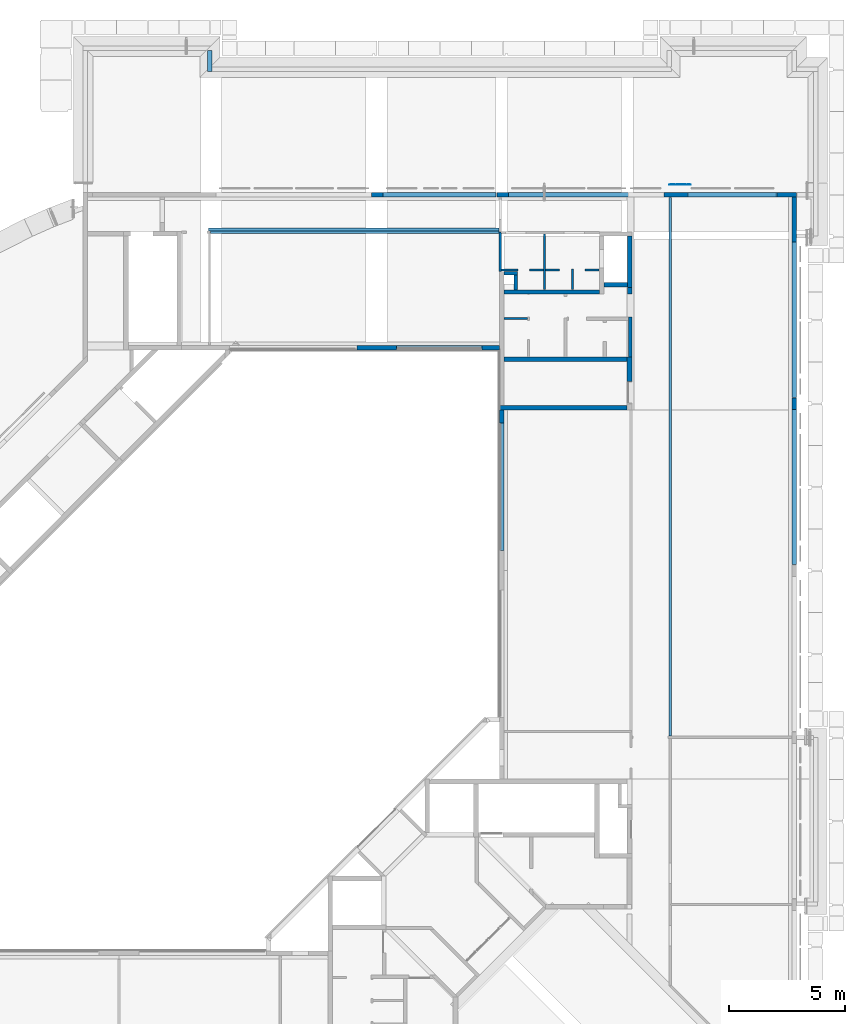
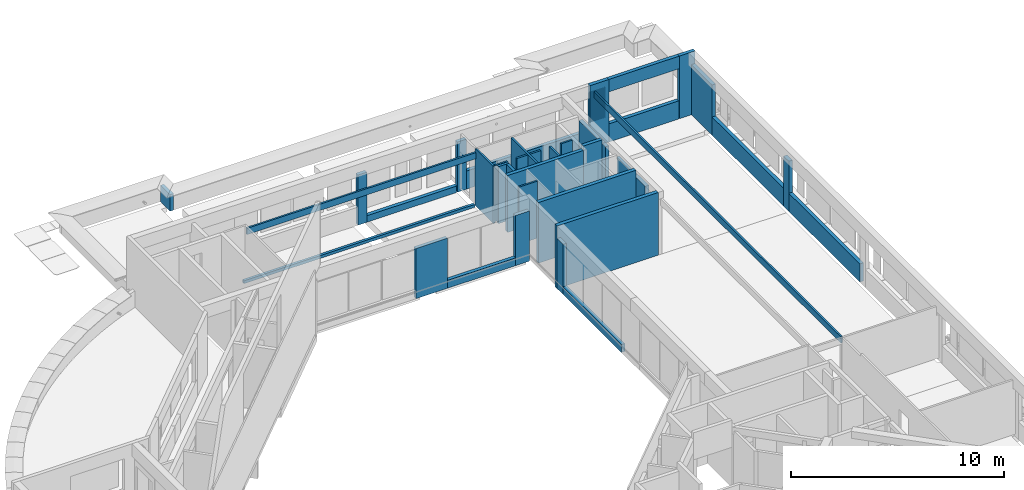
# One storey, part 16 of 38: 39 walls.
"""IFC4X3_ADD2 building model written with IfcOpenShell, lengths in millimetres."""

from ifc_helpers import new_model, si_unit, direction, frame, frame_2d, origin_with_axes, origin_2d_with_axis, place, context, subcontext, project, spatial, polyline, rectangle, outline, extrude, source, transform, mapped, material, type_object, type_shapes, element, save


model = new_model("IFC4X3_ADD2")

# Units and contexts
model_context = context("Model", 3, precision=1e-05, world=origin_with_axes(), true_north=direction((0.0, 1.0)))
body_context = subcontext(model_context, "Body", "Model", "MODEL_VIEW")
ifc_project = project(units=[si_unit("LENGTHUNIT", "METRE", prefix="MILLI"), si_unit("AREAUNIT", "SQUARE_METRE"), si_unit("VOLUMEUNIT", "CUBIC_METRE"), si_unit("PLANEANGLEUNIT", "RADIAN"), si_unit("TIMEUNIT", "SECOND"), si_unit("MASSUNIT", "GRAM")], contexts=[model_context])

# Site, building, storey
site_placement = place(None, origin_with_axes())
site = spatial("IfcSite", under=ifc_project, at=site_placement, Name="Site", CompositionType="ELEMENT")
building_placement = place(site_placement, origin_with_axes())
building = spatial("IfcBuilding", under=site, at=building_placement, Name="IFC Building Story")
storey_placement = place(building_placement, frame((0.0, 0.0, 10800.0), z_axis=(0.0, 0.0, 1.0), x_axis=(1.0, 0.0, 0.0)))
storey = spatial("IfcBuildingStorey", under=building, at=storey_placement, Name="030", Elevation=10800.0)

# Walls
ifc_material_1 = material(Name="BB_Beton_Bestaand")
wall_type_1 = type_object("IfcWallType", Name="BB_Beton_Bestaand 200", PredefinedType="NOTDEFINED", material=ifc_material_1)
wall_1_placement = place(storey_placement, origin_with_axes())
element("IfcWall", 1, at=wall_1_placement, inside=storey, type_object=wall_type_1, Name="Basic Wall:BB_XX_Wand uit beton, 200 mm", ObjectType="Basic Wall:BB_XX_Wand uit beton, 200 mm", PredefinedType="SOLIDWALL", context=body_context, shape_type="SweptSolid", body=[
    extrude(rectangle(XDim=5500.004065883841, YDim=200.0, at=origin_2d_with_axis()), frame((-9950.00203294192, 36100.0, -200.0), z_axis=(0.0, 0.0, 1.0), x_axis=(1.0, 0.0, 0.0)), (0.0, 0.0, 1.0), 3600.0),
])
wall_2_placement = place(storey_placement, origin_with_axes())
element("IfcWall", 2, at=wall_2_placement, inside=storey, type_object=wall_type_1, Name="Basic Wall:BB_XX_Wand uit beton, 200 mm", ObjectType="Basic Wall:BB_XX_Wand uit beton, 200 mm", PredefinedType="SOLIDWALL", context=body_context, shape_type="SweptSolid", body=[
    extrude(rectangle(XDim=5300.004065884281, YDim=200.0, at=origin_2d_with_axis()), frame((-9850.00203294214, 38200.0, -80.0), z_axis=(0.0, 0.0, 1.0), x_axis=(1.0, 0.0, 0.0)), (0.0, 0.0, 1.0), 3480.0),
])
wall_3_placement = place(storey_placement, origin_with_axes())
element("IfcWall", 3, at=wall_3_placement, inside=storey, type_object=wall_type_1, Name="Basic Wall:BB_XX_Wand uit beton, 200 mm", ObjectType="Basic Wall:BB_XX_Wand uit beton, 200 mm", PredefinedType="SOLIDWALL", context=body_context, shape_type="SweptSolid", body=[
    extrude(rectangle(XDim=1064.999841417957, YDim=200.0, at=frame_2d((0.0, 0.0), x_axis=(0.0, 1.0))), frame((-7100.0, 37767.50007929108, -200.0), z_axis=(0.0, 0.0, 1.0), x_axis=(1.0, 0.0, 0.0)), (0.0, 0.0, 1.0), 3190.00000000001),
])
wall_type_2 = type_object("IfcWallType", Name="BB_Beton_Bestaand 190", PredefinedType="NOTDEFINED", material=ifc_material_1)
wall_4_placement = place(storey_placement, origin_with_axes())
element("IfcWall", 4, at=wall_4_placement, inside=storey, type_object=wall_type_2, Name="Basic Wall:BB_XX_Wand uit beton, 190 mm", ObjectType="Basic Wall:BB_XX_Wand uit beton, 190 mm", PredefinedType="SOLIDWALL", context=body_context, shape_type="SweptSolid", body=[
    extrude(rectangle(XDim=300.0, YDim=190.0, at=frame_2d((0.0, 0.0), x_axis=(0.0, 1.0))), frame((-7095.0, 41150.0, -80.0), z_axis=(0.0, 0.0, 1.0), x_axis=(1.0, 0.0, 0.0)), (0.0, 0.0, 1.0), 3070.00000000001),
])
wall_5_placement = place(storey_placement, origin_with_axes())
element("IfcWall", 5, at=wall_5_placement, inside=storey, type_object=wall_type_2, Name="Basic Wall:BB_XX_Wand uit beton, 190 mm", ObjectType="Basic Wall:BB_XX_Wand uit beton, 190 mm", PredefinedType="SOLIDWALL", context=body_context, shape_type="SweptSolid", body=[
    extrude(rectangle(XDim=4909.999999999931, YDim=189.9999999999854, at=origin_2d_with_axis()), frame((-15300.00000000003, 45285.0, -200.0), z_axis=(0.0, 0.0, 1.0), x_axis=(1.0, 0.0, 0.0)), (0.0, 0.0, 1.0), 370.000000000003),
])
wall_6_placement = place(storey_placement, origin_with_axes())
element("IfcWall", 6, at=wall_6_placement, inside=storey, type_object=wall_type_2, Name="Basic Wall:BB_XX_Wand uit beton, 190 mm", ObjectType="Basic Wall:BB_XX_Wand uit beton, 190 mm", PredefinedType="SOLIDWALL", context=body_context, shape_type="SweptSolid", body=[
    extrude(rectangle(XDim=1030.00000000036, YDim=189.9999999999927, at=origin_2d_with_axis()), frame((-5094.999999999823, 45285.0, -200.0), z_axis=(0.0, 0.0, 1.0), x_axis=(1.0, 0.0, 0.0)), (0.0, 0.0, 1.0), 3600.0),
])
wall_7_placement = place(storey_placement, origin_with_axes())
element("IfcWall", 7, at=wall_7_placement, inside=storey, type_object=wall_type_2, Name="Basic Wall:BB_XX_Wand uit beton, 190 mm", ObjectType="Basic Wall:BB_XX_Wand uit beton, 190 mm", PredefinedType="SOLIDWALL", context=body_context, shape_type="SweptSolid", body=[
    extrude(rectangle(XDim=6709.99999999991, YDim=189.9999999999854, at=origin_2d_with_axis()), frame((-8965.000000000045, 45285.0, -200.0), z_axis=(0.0, 0.0, 1.0), x_axis=(1.0, 0.0, 0.0)), (0.0, 0.0, 1.0), 1040.0),
])
wall_8_placement = place(storey_placement, origin_with_axes())
element("IfcWall", 8, at=wall_8_placement, inside=storey, type_object=wall_type_2, Name="Basic Wall:BB_XX_Wand uit beton, 190 mm", ObjectType="Basic Wall:BB_XX_Wand uit beton, 190 mm", PredefinedType="SOLIDWALL", context=body_context, shape_type="SweptSolid", body=[
    extrude(rectangle(XDim=490.0, YDim=189.9999999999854, at=origin_2d_with_axis()), frame((-17965.0, 45285.0, -200.0), z_axis=(0.0, 0.0, 1.0), x_axis=(1.0, 0.0, 0.0)), (0.0, 0.0, 1.0), 2879.99999999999),
])
wall_9_placement = place(storey_placement, origin_with_axes())
element("IfcWall", 9, at=wall_9_placement, inside=storey, type_object=wall_type_2, Name="Basic Wall:BB_XX_Wand uit beton, 190 mm", ObjectType="Basic Wall:BB_XX_Wand uit beton, 190 mm", PredefinedType="SOLIDWALL", context=body_context, shape_type="SweptSolid", body=[
    extrude(rectangle(XDim=489.9999999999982, YDim=189.9999999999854, at=origin_2d_with_axis()), frame((-12565.0, 45285.0, -200.0), z_axis=(0.0, 0.0, 1.0), x_axis=(1.0, 0.0, 0.0)), (0.0, 0.0, 1.0), 2879.99999999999),
])
wall_10_placement = place(storey_placement, origin_with_axes())
element("IfcWall", 10, at=wall_10_placement, inside=storey, type_object=wall_type_2, Name="Basic Wall:BB_XX_Wand uit beton, 190 mm", ObjectType="Basic Wall:BB_XX_Wand uit beton, 190 mm", PredefinedType="SOLIDWALL", context=body_context, shape_type="SweptSolid", body=[
    extrude(rectangle(XDim=1935.000000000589, YDim=190.0, at=frame_2d((0.0, 0.0), x_axis=(0.0, 1.0))), frame((0.0, 44222.4999999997, -200.0), z_axis=(0.0, 0.0, 1.0), x_axis=(1.0, 0.0, 0.0)), (0.0, 0.0, 1.0), 2880.00000000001),
])
wall_11_placement = place(storey_placement, origin_with_axes())
element("IfcWall", 11, at=wall_11_placement, inside=storey, type_object=wall_type_2, Name="Basic Wall:BB_XX_Wand uit beton, 190 mm", ObjectType="Basic Wall:BB_XX_Wand uit beton, 190 mm", PredefinedType="SOLIDWALL", context=body_context, shape_type="SweptSolid", body=[
    extrude(rectangle(XDim=489.9999999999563, YDim=190.0, at=frame_2d((0.0, 0.0), x_axis=(0.0, 1.0))), frame((0.0, 36280.00000000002, -200.0), z_axis=(0.0, 0.0, 1.0), x_axis=(1.0, 0.0, 0.0)), (0.0, 0.0, 1.0), 2880.0),
])
wall_12_placement = place(storey_placement, origin_with_axes())
element("IfcWall", 12, at=wall_12_placement, inside=storey, type_object=wall_type_2, Name="Basic Wall:BB_XX_Wand uit beton, 190 mm", ObjectType="Basic Wall:BB_XX_Wand uit beton, 190 mm", PredefinedType="SOLIDWALL", context=body_context, shape_type="SweptSolid", body=[
    extrude(rectangle(XDim=6709.999999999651, YDim=190.0, at=frame_2d((0.0, 0.0), x_axis=(0.0, 1.0))), frame((0.0, 39900.00000000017, -200.0), z_axis=(0.0, 0.0, 1.0), x_axis=(1.0, 0.0, 0.0)), (0.0, 0.0, 1.0), 1040.0),
])
wall_13_placement = place(storey_placement, origin_with_axes())
element("IfcWall", 13, at=wall_13_placement, inside=storey, type_object=wall_type_2, Name="Basic Wall:BB_XX_Wand uit beton, 190 mm", ObjectType="Basic Wall:BB_XX_Wand uit beton, 190 mm", PredefinedType="SOLIDWALL", context=body_context, shape_type="SweptSolid", body=[
    extrude(rectangle(XDim=6709.999999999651, YDim=190.0, at=frame_2d((0.0, 0.0), x_axis=(0.0, 1.0))), frame((0.0, 32700.00000000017, -200.0), z_axis=(0.0, 0.0, 1.0), x_axis=(1.0, 0.0, 0.0)), (0.0, 0.0, 1.0), 1040.0),
])
wall_14_placement = place(storey_placement, origin_with_axes())
element("IfcWall", 14, at=wall_14_placement, inside=storey, type_object=wall_type_2, Name="Basic Wall:BB_XX_Wand uit beton, 190 mm", ObjectType="Basic Wall:BB_XX_Wand uit beton, 190 mm", PredefinedType="SOLIDWALL", context=body_context, shape_type="SweptSolid", body=[
    extrude(rectangle(XDim=1710.0, YDim=190.0, at=origin_2d_with_axis()), frame((-18000.0, 38699.9959341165, -200.0), z_axis=(0.0, 0.0, 1.0), x_axis=(1.0, 0.0, 0.0)), (0.0, 0.0, 1.0), 2880.0),
])
wall_15_placement = place(storey_placement, origin_with_axes())
element("IfcWall", 15, at=wall_15_placement, inside=storey, type_object=wall_type_2, Name="Basic Wall:BB_XX_Wand uit beton, 190 mm", ObjectType="Basic Wall:BB_XX_Wand uit beton, 190 mm", PredefinedType="SOLIDWALL", context=body_context, shape_type="SweptSolid", body=[
    extrude(rectangle(XDim=754.9959341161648, YDim=190.0, at=origin_2d_with_axis()), frame((-13077.50203294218, 38699.9959341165, -200.0), z_axis=(0.0, 0.0, 1.0), x_axis=(1.0, 0.0, 0.0)), (0.0, 0.0, 1.0), 2880.0),
])
wall_16_placement = place(storey_placement, origin_with_axes())
element("IfcWall", 16, at=wall_16_placement, inside=storey, type_object=wall_type_2, Name="Basic Wall:BB_XX_Wand uit beton, 190 mm", ObjectType="Basic Wall:BB_XX_Wand uit beton, 190 mm", PredefinedType="SOLIDWALL", context=body_context, shape_type="SweptSolid", body=[
    extrude(rectangle(XDim=554.9999999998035, YDim=190.0, at=frame_2d((0.0, 0.0), x_axis=(0.0, 1.0))), frame((-12600.0040658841, 35722.4999999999, -200.0), z_axis=(0.0, 0.0, 1.0), x_axis=(1.0, 0.0, 0.0)), (0.0, 0.0, 1.0), 2880.0),
])
wall_17_placement = place(storey_placement, origin_with_axes())
element("IfcWall", 17, at=wall_17_placement, inside=storey, type_object=wall_type_2, Name="Basic Wall:BB_XX_Wand uit beton, 190 mm", ObjectType="Basic Wall:BB_XX_Wand uit beton, 190 mm", PredefinedType="SOLIDWALL", context=body_context, shape_type="SweptSolid", body=[
    extrude(rectangle(XDim=3830.0, YDim=189.9999999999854, at=origin_2d_with_axis()), frame((-2700.0, 45285.0, -200.0), z_axis=(0.0, 0.0, 1.0), x_axis=(1.0, 0.0, 0.0)), (0.0, 0.0, 1.0), 1040.0),
])
wall_18_placement = place(storey_placement, origin_with_axes())
element("IfcWall", 18, at=wall_18_placement, inside=storey, type_object=wall_type_2, Name="Basic Wall:BB_XX_Wand uit beton, 190 mm", ObjectType="Basic Wall:BB_XX_Wand uit beton, 190 mm", PredefinedType="SOLIDWALL", context=body_context, shape_type="SweptSolid", body=[
    extrude(rectangle(XDim=845.0000000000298, YDim=189.9999999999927, at=origin_2d_with_axis()), frame((-327.4999999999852, 45285.0, -200.0), z_axis=(0.0, 0.0, 1.0), x_axis=(1.0, 0.0, 0.0)), (0.0, 0.0, 1.0), 3600.0),
])
wall_19_placement = place(storey_placement, origin_with_axes())
element("IfcWall", 19, at=wall_19_placement, inside=storey, type_object=wall_type_2, Name="Basic Wall:BB_XX_Wand uit beton, 190 mm", ObjectType="Basic Wall:BB_XX_Wand uit beton, 190 mm", PredefinedType="SOLIDWALL", context=body_context, shape_type="SweptSolid", body=[
    extrude(rectangle(XDim=3830.0, YDim=189.9999999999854, at=origin_2d_with_axis()), frame((-2665.0, 45285.0, 2680.0), z_axis=(0.0, 0.0, 1.0), x_axis=(1.0, 0.0, 0.0)), (0.0, 0.0, 1.0), 720.000000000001),
])
wall_20_placement = place(storey_placement, origin_with_axes())
element("IfcWall", 20, at=wall_20_placement, inside=storey, type_object=wall_type_2, Name="Basic Wall:BB_XX_Wand uit beton, 190 mm", ObjectType="Basic Wall:BB_XX_Wand uit beton, 190 mm", PredefinedType="SOLIDWALL", context=body_context, shape_type="SweptSolid", body=[
    extrude(rectangle(XDim=5490.000000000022, YDim=190.0, at=frame_2d((0.0, 0.0), x_axis=(0.0, 1.0))), frame((-12600.0040658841, 32700.00000000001, -200.0), z_axis=(0.0, 0.0, 1.0), x_axis=(1.0, 0.0, 0.0)), (0.0, 0.0, 1.0), 450.000000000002),
])
wall_21_placement = place(storey_placement, origin_with_axes())
element("IfcWall", 21, at=wall_21_placement, inside=storey, type_object=wall_type_2, Name="Basic Wall:BB_XX_Wand uit beton, 190 mm", ObjectType="Basic Wall:BB_XX_Wand uit beton, 190 mm", PredefinedType="SOLIDWALL", context=body_context, shape_type="SweptSolid", body=[
    extrude(rectangle(XDim=3690.0, YDim=190.0, at=origin_2d_with_axis()), frame((-15300.0, 38699.9959341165, -200.0), z_axis=(0.0, 0.0, 1.0), x_axis=(1.0, 0.0, 0.0)), (0.0, 0.0, 1.0), 450.000000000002),
])
ifc_material_2 = material(Name="BB_Metselwerk_Bestaand")
wall_type_3 = type_object("IfcWallType", Name="BB_Metselwerk_Bestaand 140", PredefinedType="NOTDEFINED", material=ifc_material_2)
wall_22_placement = place(storey_placement, origin_with_axes())
element("IfcWall", 22, at=wall_22_placement, inside=storey, type_object=wall_type_3, Name="Basic Wall:BB_XX_Wand uit metselwerk, 140 mm", ObjectType="Basic Wall:BB_XX_Wand uit metselwerk, 140 mm", PredefinedType="SOLIDWALL", context=body_context, shape_type="SweptSolid", body=[
    extrude(rectangle(XDim=1709.999999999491, YDim=140.0, at=frame_2d((0.0, 0.0), x_axis=(0.0, 1.0))), frame((-7070.0, 39154.99999999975, -80.0), z_axis=(0.0, 0.0, 1.0), x_axis=(1.0, 0.0, 0.0)), (0.0, 0.0, 1.0), 3070.00000000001),
])
wall_23_placement = place(storey_placement, origin_with_axes())
element("IfcWall", 23, at=wall_23_placement, inside=storey, type_object=wall_type_3, Name="Basic Wall:BB_XX_Wand uit metselwerk, 140 mm", ObjectType="Basic Wall:BB_XX_Wand uit metselwerk, 140 mm", PredefinedType="SOLIDWALL", context=body_context, shape_type="SweptSolid", body=[
    extrude(rectangle(XDim=570.0000000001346, YDim=140.0, at=origin_2d_with_axis()), frame((-12215.00406588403, 41910.0, -80.0), z_axis=(0.0, 0.0, 1.0), x_axis=(1.0, 0.0, 0.0)), (0.0, 0.0, 1.0), 3270.0),
])
wall_24_placement = place(storey_placement, origin_with_axes())
element("IfcWall", 24, at=wall_24_placement, inside=storey, type_object=wall_type_3, Name="Basic Wall:BB_XX_Wand uit metselwerk, 140 mm", ObjectType="Basic Wall:BB_XX_Wand uit metselwerk, 140 mm", PredefinedType="SOLIDWALL", context=body_context, shape_type="SweptSolid", body=[
    extrude(rectangle(XDim=649.9999999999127, YDim=139.9999999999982, at=frame_2d((0.0, 0.0), x_axis=(0.0, 1.0))), frame((-12000.004065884, 41515.00000000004, -80.0), z_axis=(0.0, 0.0, 1.0), x_axis=(1.0, 0.0, 0.0)), (0.0, 0.0, 1.0), 3270.0),
])
wall_type_4 = type_object("IfcWallType", Name="BB_Metselwerk_Bestaand 190", PredefinedType="NOTDEFINED", material=ifc_material_2)
wall_25_placement = place(storey_placement, origin_with_axes())
element("IfcWall", 25, at=wall_25_placement, inside=storey, type_object=wall_type_4, Name="Basic Wall:BB_XX_Wand uit metselwerk, 190 mm", ObjectType="Basic Wall:BB_XX_Wand uit metselwerk, 190 mm", PredefinedType="SOLIDWALL", context=body_context, shape_type="SweptSolid", body=[
    extrude(rectangle(XDim=2200.000000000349, YDim=190.0, at=frame_2d((0.0, 0.0), x_axis=(0.0, 1.0))), frame((-7095.0, 42399.99999999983, -80.0), z_axis=(0.0, 0.0, 1.0), x_axis=(1.0, 0.0, 0.0)), (0.0, 0.0, 1.0), 3070.00000000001),
])
wall_26_placement = place(storey_placement, origin_with_axes())
element("IfcWall", 26, at=wall_26_placement, inside=storey, type_object=wall_type_4, Name="Basic Wall:BB_XX_Wand uit metselwerk, 190 mm", ObjectType="Basic Wall:BB_XX_Wand uit metselwerk, 190 mm", PredefinedType="SOLIDWALL", context=body_context, shape_type="SweptSolid", body=[
    extrude(rectangle(XDim=1010.00016265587, YDim=189.9999999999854, at=origin_2d_with_axis()), frame((-7695.000081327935, 41405.0, -80.0), z_axis=(0.0, 0.0, 1.0), x_axis=(1.0, 0.0, 0.0)), (0.0, 0.0, 1.0), 3270.0),
])
wall_27_placement = place(storey_placement, origin_with_axes())
element("IfcWall", 27, at=wall_27_placement, inside=storey, type_object=wall_type_4, Name="Basic Wall:BB_XX_Wand uit metselwerk, 190 mm", ObjectType="Basic Wall:BB_XX_Wand uit metselwerk, 190 mm", PredefinedType="SOLIDWALL", context=body_context, shape_type="SweptSolid", body=[
    extrude(rectangle(XDim=4110.003903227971, YDim=189.9999999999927, at=origin_2d_with_axis()), frame((-10445.00211427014, 41095.0, -80.0), z_axis=(0.0, 0.0, 1.0), x_axis=(1.0, 0.0, 0.0)), (0.0, 0.0, 1.0), 3270.0),
])
ifc_material_3 = material(Name="BB_Metselwerk_Betonsteen")
wall_type_5 = type_object("IfcWallType", Name="BB_Metselwerk_Betonsteen 190", PredefinedType="NOTDEFINED", material=ifc_material_3)
wall_28_placement = place(storey_placement, origin_with_axes())
element("IfcWall", 28, at=wall_28_placement, inside=storey, type_object=wall_type_5, Name="Basic Wall:BB_03.09.24#03_Wand uit metselwerk, 190 mm", ObjectType="Basic Wall:BB_03.09.24#03_Wand uit metselwerk, 190 mm", PredefinedType="SOLIDWALL", context=body_context, shape_type="SweptSolid", body=[
    extrude(rectangle(XDim=899.999999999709, YDim=190.0, at=frame_2d((0.0, 0.0), x_axis=(0.0, 1.0))), frame((-25185.0, 51055.00000000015, -200.0), z_axis=(0.0, 0.0, 1.0), x_axis=(1.0, 0.0, 0.0)), (0.0, 0.0, 1.0), 940.000000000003),
])
wall_type_6 = type_object("IfcWallType", Name="Basic Wall_BB_10.01.41#02_Gipskartonwand_Vochtbestendig_MS100 _ 25.50.25_ 100 mm3", PredefinedType="NOTDEFINED")
shared_shape_1 = source(origin_with_axes(), body_context, "Body", "SweptSolid", [
    extrude(rectangle(XDim=1725.00000000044, YDim=12.49999999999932, at=origin_2d_with_axis()), frame((862.50000000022, 43.74999999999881, 0.0), z_axis=(0.0, 0.0, 1.0), x_axis=(1.0, 0.0, 0.0)), (0.0, 0.0, 1.0), 3270.0),
    extrude(rectangle(XDim=1712.500000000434, YDim=12.49999999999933, at=origin_2d_with_axis()), frame((856.250000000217, 31.2499999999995, 0.0), z_axis=(0.0, 0.0, 1.0), x_axis=(1.0, 0.0, 0.0)), (0.0, 0.0, 1.0), 3270.0),
    extrude(rectangle(XDim=1700.000000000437, YDim=50.0000000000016, at=origin_2d_with_axis()), frame((850.0000000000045, 1.097788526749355e-12, 0.0), z_axis=(0.0, 0.0, 1.0), x_axis=(1.0, 0.0, 0.0)), (0.0, 0.0, 1.0), 3270.0),
    extrude(rectangle(XDim=1650.00000000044, YDim=12.49999999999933, at=origin_2d_with_axis()), frame((825.0, -31.2500000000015, 0.0), z_axis=(0.0, 0.0, 1.0), x_axis=(1.0, 0.0, 0.0)), (0.0, 0.0, 1.0), 3270.0),
    extrude(rectangle(XDim=1637.500000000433, YDim=12.49999999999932, at=origin_2d_with_axis()), frame((818.7499999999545, -43.75000000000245, 0.0), z_axis=(0.0, 0.0, 1.0), x_axis=(1.0, 0.0, 0.0)), (0.0, 0.0, 1.0), 3270.0),
])
type_shapes(wall_type_6, [shared_shape_1])
wall_29_placement = place(storey_placement, frame((-12665.0040658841, 41980.0, -80.0), z_axis=(0.0, 0.0, 1.0), x_axis=(0.0, 1.0, 0.0)))
element("IfcWall", 29, at=wall_29_placement, inside=storey, type_object=wall_type_6, Name="Basic Wall:BB_10.01.41#02_Gipskartonwand_Vochtbestendig_MS100 / 25.50.25, 100 mm", ObjectType="Basic Wall:BB_10.01.41#02_Gipskartonwand_Vochtbestendig_MS100 / 25.50.25, 100 mm", PredefinedType="PARTITIONING", context=body_context, shape_type="MappedRepresentation", body=[
    mapped(shared_shape_1, transform((0.0, 0.0, 0.0))),
])
wall_type_7 = type_object("IfcWallType", Name="Basic Wall_BB_10.01.41#02_Gipskartonwand_Vochtbestendig_MS100 _ 25.50.25_ 100 mm7", PredefinedType="NOTDEFINED")
shared_shape_2 = source(origin_with_axes(), body_context, "Body", "SweptSolid", [
    extrude(rectangle(XDim=2400.00000000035, YDim=12.49999999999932, at=origin_2d_with_axis()), frame((1200.000000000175, 43.75000000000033, 0.0), z_axis=(0.0, 0.0, 1.0), x_axis=(1.0, 0.0, 0.0)), (0.0, 0.0, 1.0), 3200.0),
    extrude(rectangle(XDim=2400.00000000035, YDim=12.49999999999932, at=origin_2d_with_axis()), frame((1199.999999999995, 31.25000000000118, 0.0), z_axis=(0.0, 0.0, 1.0), x_axis=(1.0, 0.0, 0.0)), (0.0, 0.0, 1.0), 3200.0),
    extrude(rectangle(XDim=2400.00000000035, YDim=50.0000000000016, at=origin_2d_with_axis()), frame((1199.999999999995, 0.0, 0.0), z_axis=(0.0, 0.0, 1.0), x_axis=(1.0, 0.0, 0.0)), (0.0, 0.0, 1.0), 3200.0),
    extrude(rectangle(XDim=2400.00000000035, YDim=12.49999999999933, at=origin_2d_with_axis()), frame((1199.999999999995, -31.24999999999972, 0.0), z_axis=(0.0, 0.0, 1.0), x_axis=(1.0, 0.0, 0.0)), (0.0, 0.0, 1.0), 3200.0),
    extrude(rectangle(XDim=2400.00000000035, YDim=12.49999999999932, at=origin_2d_with_axis()), frame((1200.000000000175, -43.74999999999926, 0.0), z_axis=(0.0, 0.0, 1.0), x_axis=(1.0, 0.0, 0.0)), (0.0, 0.0, 1.0), 3200.0),
])
type_shapes(wall_type_7, [shared_shape_2])
wall_30_placement = place(storey_placement, frame((-10766.544065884, 41205.0, -10.0), z_axis=(0.0, 0.0, 1.0), x_axis=(0.0, 1.0, 0.0)))
element("IfcWall", 30, at=wall_30_placement, inside=storey, type_object=wall_type_7, Name="Basic Wall:BB_10.01.41#02_Gipskartonwand_Vochtbestendig_MS100 / 25.50.25, 100 mm", ObjectType="Basic Wall:BB_10.01.41#02_Gipskartonwand_Vochtbestendig_MS100 / 25.50.25, 100 mm", PredefinedType="PARTITIONING", context=body_context, shape_type="MappedRepresentation", body=[
    mapped(shared_shape_2, transform((0.0, 0.0, 0.0))),
])
wall_type_8 = type_object("IfcWallType", Name="Basic Wall_BB_10.01.41#02_Gipskartonwand_Vochtbestendig_MS100 _ 25.50.25_ 100 mm9", PredefinedType="NOTDEFINED")
shared_shape_3 = source(origin_with_axes(), body_context, "Body", "SweptSolid", [
    extrude(rectangle(XDim=699.9999999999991, YDim=12.49999999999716, at=origin_2d_with_axis()), frame((349.9999999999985, 43.74999999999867, 0.0), z_axis=(0.0, 0.0, 1.0), x_axis=(1.0, 0.0, 0.0)), (0.0, 0.0, 1.0), 3200.0),
    extrude(rectangle(XDim=699.9999999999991, YDim=12.49999999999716, at=origin_2d_with_axis()), frame((349.9999999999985, 31.25000000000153, 0.0), z_axis=(0.0, 0.0, 1.0), x_axis=(1.0, 0.0, 0.0)), (0.0, 0.0, 1.0), 3200.0),
    extrude(rectangle(XDim=725.0, YDim=50.000000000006, at=origin_2d_with_axis()), frame((337.499999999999, 0.0, 0.0), z_axis=(0.0, 0.0, 1.0), x_axis=(1.0, 0.0, 0.0)), (0.0, 0.0, 1.0), 3200.0),
    extrude(rectangle(XDim=712.499999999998, YDim=12.49999999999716, at=origin_2d_with_axis()), frame((343.75, -31.25000000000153, 0.0), z_axis=(0.0, 0.0, 1.0), x_axis=(1.0, 0.0, 0.0)), (0.0, 0.0, 1.0), 3200.0),
    extrude(rectangle(XDim=699.9999999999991, YDim=12.50000000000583, at=origin_2d_with_axis()), frame((350.0000000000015, -43.750000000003, 0.0), z_axis=(0.0, 0.0, 1.0), x_axis=(1.0, 0.0, 0.0)), (0.0, 0.0, 1.0), 3200.0),
])
type_shapes(wall_type_8, [shared_shape_3])
wall_31_placement = place(storey_placement, frame((-12615.0040658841, 42044.4999999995, -10.0), z_axis=(0.0, 0.0, 1.0), x_axis=(1.0, 0.0, 0.0)))
element("IfcWall", 31, at=wall_31_placement, inside=storey, type_object=wall_type_8, Name="Basic Wall:BB_10.01.41#02_Gipskartonwand_Vochtbestendig_MS100 / 25.50.25, 100 mm", ObjectType="Basic Wall:BB_10.01.41#02_Gipskartonwand_Vochtbestendig_MS100 / 25.50.25, 100 mm", PredefinedType="PARTITIONING", context=body_context, shape_type="MappedRepresentation", body=[
    mapped(shared_shape_3, transform((0.0, 0.0, 0.0))),
])
wall_type_9 = type_object("IfcWallType", Name="Basic Wall_BB_10.01.41#02_Gipskartonwand_Vochtbestendig_MS100 _ 25.50.25_ 100 mm11", PredefinedType="NOTDEFINED")
shared_shape_4 = source(origin_with_axes(), body_context, "Body", "SweptSolid", [
    extrude(rectangle(XDim=601.5399999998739, YDim=12.49999999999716, at=origin_2d_with_axis()), frame((999.230000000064, 43.74999999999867, 0.0), z_axis=(0.0, 0.0, 1.0), x_axis=(1.0, 0.0, 0.0)), (0.0, 0.0, 1.0), 3200.0),
    extrude(rectangle(XDim=598.460000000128, YDim=12.49999999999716, at=origin_2d_with_axis()), frame((299.230000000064, 43.74999999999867, 0.0), z_axis=(0.0, 0.0, 1.0), x_axis=(1.0, 0.0, 0.0)), (0.0, 0.0, 1.0), 3200.0),
    extrude(rectangle(XDim=601.5399999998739, YDim=12.49999999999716, at=origin_2d_with_axis()), frame((999.230000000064, 31.25000000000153, 0.0), z_axis=(0.0, 0.0, 1.0), x_axis=(1.0, 0.0, 0.0)), (0.0, 0.0, 1.0), 3200.0),
    extrude(rectangle(XDim=598.460000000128, YDim=12.49999999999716, at=origin_2d_with_axis()), frame((299.230000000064, 31.25000000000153, 0.0), z_axis=(0.0, 0.0, 1.0), x_axis=(1.0, 0.0, 0.0)), (0.0, 0.0, 1.0), 3200.0),
    extrude(rectangle(XDim=601.5399999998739, YDim=50.000000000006, at=origin_2d_with_axis()), frame((999.230000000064, 0.0, 0.0), z_axis=(0.0, 0.0, 1.0), x_axis=(1.0, 0.0, 0.0)), (0.0, 0.0, 1.0), 3200.0),
    extrude(rectangle(XDim=598.460000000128, YDim=50.000000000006, at=origin_2d_with_axis()), frame((299.230000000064, 0.0, 0.0), z_axis=(0.0, 0.0, 1.0), x_axis=(1.0, 0.0, 0.0)), (0.0, 0.0, 1.0), 3200.0),
    extrude(rectangle(XDim=601.5399999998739, YDim=12.49999999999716, at=origin_2d_with_axis()), frame((999.230000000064, -31.25000000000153, 0.0), z_axis=(0.0, 0.0, 1.0), x_axis=(1.0, 0.0, 0.0)), (0.0, 0.0, 1.0), 3200.0),
    extrude(rectangle(XDim=598.460000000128, YDim=12.49999999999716, at=origin_2d_with_axis()), frame((299.230000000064, -31.25000000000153, 0.0), z_axis=(0.0, 0.0, 1.0), x_axis=(1.0, 0.0, 0.0)), (0.0, 0.0, 1.0), 3200.0),
    extrude(rectangle(XDim=601.5399999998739, YDim=12.50000000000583, at=origin_2d_with_axis()), frame((999.230000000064, -43.750000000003, 0.0), z_axis=(0.0, 0.0, 1.0), x_axis=(1.0, 0.0, 0.0)), (0.0, 0.0, 1.0), 3200.0),
    extrude(rectangle(XDim=598.460000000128, YDim=12.50000000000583, at=origin_2d_with_axis()), frame((299.230000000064, -43.750000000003, 0.0), z_axis=(0.0, 0.0, 1.0), x_axis=(1.0, 0.0, 0.0)), (0.0, 0.0, 1.0), 3200.0),
])
type_shapes(wall_type_9, [shared_shape_4])
wall_32_placement = place(storey_placement, frame((-11415.0040658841, 42044.4999999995, -10.0), z_axis=(0.0, 0.0, 1.0), x_axis=(1.0, 0.0, 0.0)))
element("IfcWall", 32, at=wall_32_placement, inside=storey, type_object=wall_type_9, Name="Basic Wall:BB_10.01.41#02_Gipskartonwand_Vochtbestendig_MS100 / 25.50.25, 100 mm", ObjectType="Basic Wall:BB_10.01.41#02_Gipskartonwand_Vochtbestendig_MS100 / 25.50.25, 100 mm", PredefinedType="PARTITIONING", context=body_context, shape_type="MappedRepresentation", body=[
    mapped(shared_shape_4, transform((0.0, 0.0, 0.0))),
])
wall_type_10 = type_object("IfcWallType", Name="Basic Wall_BB_10.01.41#02_Gipskartonwand_Vochtbestendig_MS100 _ 25.50.25_ 100 mm13", PredefinedType="NOTDEFINED")
shared_shape_5 = source(origin_with_axes(), body_context, "Body", "SweptSolid", [
    extrude(rectangle(XDim=889.499999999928, YDim=12.49999999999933, at=origin_2d_with_axis()), frame((444.749999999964, 43.74999999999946, 0.0), z_axis=(0.0, 0.0, 1.0), x_axis=(1.0, 0.0, 0.0)), (0.0, 0.0, 1.0), 3200.0),
    extrude(rectangle(XDim=889.499999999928, YDim=12.5000000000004, at=origin_2d_with_axis()), frame((444.749999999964, 31.2499999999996, 0.0), z_axis=(0.0, 0.0, 1.0), x_axis=(1.0, 0.0, 0.0)), (0.0, 0.0, 1.0), 3200.0),
    extrude(rectangle(XDim=889.499999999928, YDim=49.9999999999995, at=origin_2d_with_axis()), frame((444.749999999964, 0.0, 0.0), z_axis=(0.0, 0.0, 1.0), x_axis=(1.0, 0.0, 0.0)), (0.0, 0.0, 1.0), 3200.0),
    extrude(rectangle(XDim=889.499999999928, YDim=12.5000000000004, at=origin_2d_with_axis()), frame((444.749999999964, -31.2500000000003, 0.0), z_axis=(0.0, 0.0, 1.0), x_axis=(1.0, 0.0, 0.0)), (0.0, 0.0, 1.0), 3200.0),
    extrude(rectangle(XDim=889.499999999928, YDim=12.50000000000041, at=origin_2d_with_axis()), frame((444.749999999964, -43.75000000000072, 0.0), z_axis=(0.0, 0.0, 1.0), x_axis=(1.0, 0.0, 0.0)), (0.0, 0.0, 1.0), 3200.0),
])
type_shapes(wall_type_10, [shared_shape_5])
wall_33_placement = place(storey_placement, frame((-9560.50000000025, 42094.4999999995, -10.0), z_axis=(0.0, 0.0, 1.0), x_axis=(0.0, -1.0, 0.0)))
element("IfcWall", 33, at=wall_33_placement, inside=storey, type_object=wall_type_10, Name="Basic Wall:BB_10.01.41#02_Gipskartonwand_Vochtbestendig_MS100 / 25.50.25, 100 mm", ObjectType="Basic Wall:BB_10.01.41#02_Gipskartonwand_Vochtbestendig_MS100 / 25.50.25, 100 mm", PredefinedType="PARTITIONING", context=body_context, shape_type="MappedRepresentation", body=[
    mapped(shared_shape_5, transform((0.0, 0.0, 0.0))),
])
wall_type_11 = type_object("IfcWallType", Name="Basic Wall_BB_10.01.41#02_Gipskartonwand_Vochtbestendig_MS100 _ 25.50.25_ 100 mm15", PredefinedType="NOTDEFINED")
shared_shape_6 = source(origin_with_axes(), body_context, "Body", "SweptSolid", [
    extrude(rectangle(XDim=605.499837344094, YDim=12.49999999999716, at=origin_2d_with_axis()), frame((302.749918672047, 43.74999999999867, 0.0), z_axis=(0.0, 0.0, 1.0), x_axis=(1.0, 0.0, 0.0)), (0.0, 0.0, 1.0), 3200.0),
    extrude(rectangle(XDim=605.499837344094, YDim=12.49999999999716, at=origin_2d_with_axis()), frame((302.749918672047, 31.25000000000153, 0.0), z_axis=(0.0, 0.0, 1.0), x_axis=(1.0, 0.0, 0.0)), (0.0, 0.0, 1.0), 3200.0),
    extrude(rectangle(XDim=605.499837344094, YDim=50.000000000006, at=origin_2d_with_axis()), frame((302.749918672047, 0.0, 0.0), z_axis=(0.0, 0.0, 1.0), x_axis=(1.0, 0.0, 0.0)), (0.0, 0.0, 1.0), 3200.0),
    extrude(rectangle(XDim=605.499837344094, YDim=12.49999999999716, at=origin_2d_with_axis()), frame((302.749918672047, -31.25000000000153, 0.0), z_axis=(0.0, 0.0, 1.0), x_axis=(1.0, 0.0, 0.0)), (0.0, 0.0, 1.0), 3200.0),
    extrude(rectangle(XDim=605.499837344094, YDim=12.50000000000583, at=origin_2d_with_axis()), frame((302.749918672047, -43.750000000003, 0.0), z_axis=(0.0, 0.0, 1.0), x_axis=(1.0, 0.0, 0.0)), (0.0, 0.0, 1.0), 3200.0),
])
type_shapes(wall_type_11, [shared_shape_6])
wall_34_placement = place(storey_placement, frame((-9010.50000000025, 42044.4999999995, -10.0), z_axis=(0.0, 0.0, 1.0), x_axis=(1.0, 0.0, 0.0)))
element("IfcWall", 34, at=wall_34_placement, inside=storey, type_object=wall_type_11, Name="Basic Wall:BB_10.01.41#02_Gipskartonwand_Vochtbestendig_MS100 / 25.50.25, 100 mm", ObjectType="Basic Wall:BB_10.01.41#02_Gipskartonwand_Vochtbestendig_MS100 / 25.50.25, 100 mm", PredefinedType="PARTITIONING", context=body_context, shape_type="MappedRepresentation", body=[
    mapped(shared_shape_6, transform((0.0, 0.0, 0.0))),
])
wall_type_12 = type_object("IfcWallType", Name="Basic Wall_BB_10.01.41#21_Gipskartonwand_EI60_43dB_MS100 _ 25.50.25_ 100 mm91", PredefinedType="NOTDEFINED")
shared_shape_7 = source(origin_with_axes(), body_context, "Body", "SweptSolid", [
    extrude(rectangle(XDim=23215.0, YDim=12.49999999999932, at=origin_2d_with_axis()), frame((11607.5, 43.75000000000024, 0.0), z_axis=(0.0, 0.0, 1.0), x_axis=(1.0, 0.0, 0.0)), (0.0, 0.0, 1.0), 360.0),
    extrude(rectangle(XDim=23215.0, YDim=12.5000000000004, at=origin_2d_with_axis()), frame((11607.5, 31.2500000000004, 0.0), z_axis=(0.0, 0.0, 1.0), x_axis=(1.0, 0.0, 0.0)), (0.0, 0.0, 1.0), 360.0),
    extrude(rectangle(XDim=23215.0, YDim=49.9999999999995, at=origin_2d_with_axis()), frame((11607.5, 0.0, 0.0), z_axis=(0.0, 0.0, 1.0), x_axis=(1.0, 0.0, 0.0)), (0.0, 0.0, 1.0), 360.0),
    extrude(rectangle(XDim=23215.0, YDim=12.5000000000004, at=origin_2d_with_axis()), frame((11607.5, -31.2499999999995, 0.0), z_axis=(0.0, 0.0, 1.0), x_axis=(1.0, 0.0, 0.0)), (0.0, 0.0, 1.0), 360.0),
    extrude(rectangle(XDim=23215.0, YDim=12.5000000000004, at=origin_2d_with_axis()), frame((11607.5, -43.7499999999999, 0.0), z_axis=(0.0, 0.0, 1.0), x_axis=(1.0, 0.0, 0.0)), (0.0, 0.0, 1.0), 360.0),
])
type_shapes(wall_type_12, [shared_shape_7])
wall_35_placement = place(storey_placement, frame((-5350.0, 45165.0, 2640.0), z_axis=(0.0, 0.0, 1.0), x_axis=(0.0, -1.0, 0.0)))
element("IfcWall", 35, at=wall_35_placement, inside=storey, type_object=wall_type_12, Name="Basic Wall:BB_10.01.41#21_Gipskartonwand_EI60_43dB_MS100 / 25.50.25, 100 mm", ObjectType="Basic Wall:BB_10.01.41#21_Gipskartonwand_EI60_43dB_MS100 / 25.50.25, 100 mm", PredefinedType="PARTITIONING", context=body_context, shape_type="MappedRepresentation", body=[
    mapped(shared_shape_7, transform((0.0, 0.0, 0.0))),
])
wall_type_13 = type_object("IfcWallType", Name="Basic Wall_BB_10.01.41#21_Gipskartonwand_EI60_43dB_MS100 _ 25.50.25_ 100 mm93", PredefinedType="NOTDEFINED")
shared_shape_8 = source(origin_with_axes(), body_context, "Body", "SweptSolid", [
    extrude(rectangle(XDim=12440.0, YDim=12.4999999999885, at=origin_2d_with_axis()), frame((6220.0, 43.75000000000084, 0.0), z_axis=(0.0, 0.0, 1.0), x_axis=(1.0, 0.0, 0.0)), (0.0, 0.0, 1.0), 360.0),
    extrude(rectangle(XDim=12440.0, YDim=12.49999999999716, at=origin_2d_with_axis()), frame((6220.0, 31.2500000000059, 0.0), z_axis=(0.0, 0.0, 1.0), x_axis=(1.0, 0.0, 0.0)), (0.0, 0.0, 1.0), 360.0),
    extrude(rectangle(XDim=12440.0, YDim=50.0000000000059, at=origin_2d_with_axis()), frame((6220.0, -4.352074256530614e-12, 0.0), z_axis=(0.0, 0.0, 1.0), x_axis=(1.0, 0.0, 0.0)), (0.0, 0.0, 1.0), 360.0),
    extrude(rectangle(XDim=12440.0, YDim=12.49999999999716, at=origin_2d_with_axis()), frame((6220.0, -31.2499999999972, 0.0), z_axis=(0.0, 0.0, 1.0), x_axis=(1.0, 0.0, 0.0)), (0.0, 0.0, 1.0), 360.0),
    extrude(rectangle(XDim=12440.0, YDim=12.50000000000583, at=origin_2d_with_axis()), frame((6220.0, -43.7500000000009, 0.0), z_axis=(0.0, 0.0, 1.0), x_axis=(1.0, 0.0, 0.0)), (0.0, 0.0, 1.0), 360.0),
])
type_shapes(wall_type_13, [shared_shape_8])
wall_36_placement = place(storey_placement, frame((-25150.0, 43665.0, 2640.0), z_axis=(0.0, 0.0, 1.0), x_axis=(1.0, 0.0, 0.0)))
element("IfcWall", 36, at=wall_36_placement, inside=storey, type_object=wall_type_13, Name="Basic Wall:BB_10.01.41#21_Gipskartonwand_EI60_43dB_MS100 / 25.50.25, 100 mm", ObjectType="Basic Wall:BB_10.01.41#21_Gipskartonwand_EI60_43dB_MS100 / 25.50.25, 100 mm", PredefinedType="PARTITIONING", context=body_context, shape_type="MappedRepresentation", body=[
    mapped(shared_shape_8, transform((0.0, 0.0, 0.0))),
])
wall_type_14 = type_object("IfcWallType", Name="BB_Metselwerk_Betonsteen 140", PredefinedType="NOTDEFINED", material=ifc_material_3)
wall_37_placement = place(storey_placement, origin_with_axes())
element("IfcWall", 37, at=wall_37_placement, inside=storey, type_object=wall_type_14, Name="Basic Wall:BB_03.09.24#01_Wand uit metselwerk, 140 mm", ObjectType="Basic Wall:BB_03.09.24#01_Wand uit metselwerk, 140 mm", PredefinedType="SOLIDWALL", context=body_context, shape_type="SweptSolid", body=[
    extrude(rectangle(XDim=12534.9959341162, YDim=140.0000000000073, at=origin_2d_with_axis()), frame((-18982.5020329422, 43785.0, -200.0), z_axis=(0.0, 0.0, 1.0), x_axis=(1.0, 0.0, 0.0)), (0.0, 0.0, 1.0), 164.999999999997),
])
wall_type_15 = type_object("IfcWallType", Name="BB_Metselwerk_Bestaand 90", PredefinedType="NOTDEFINED", material=ifc_material_2)
wall_38_placement = place(storey_placement, origin_with_axes())
element("IfcWall", 38, at=wall_38_placement, inside=storey, type_object=wall_type_15, Name="Basic Wall:BB_XX_Wand uit metselwerk, 90 mm", ObjectType="Basic Wall:BB_XX_Wand uit metselwerk, 90 mm", PredefinedType="SOLIDWALL", context=body_context, shape_type="SweptSolid", body=[
    extrude(rectangle(XDim=1000.00000000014, YDim=90.0, at=origin_2d_with_axis()), frame((-12000.00406588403, 39955.0, -80.0), z_axis=(0.0, 0.0, 1.0), x_axis=(1.0, 0.0, 0.0)), (0.0, 0.0, 1.0), 3270.0),
])
ifc_material_4 = material(Name="BB_Metaal_Aluminium_Puntprofiel")
wall_type_16 = type_object("IfcWallType", Name="BB_Metaal_Aluminium_Puntprofiel 1", PredefinedType="NOTDEFINED", material=ifc_material_4)
wall_39_placement = place(storey_placement, origin_with_axes())
element("IfcWall", 39, at=wall_39_placement, inside=storey, type_object=wall_type_16, Name="BB_07.10_Gevelbekleding_PuntProfiel, 900 mm, vol_GMO:900 x 1780 mm", ObjectType="BB_07.10_Gevelbekleding_PuntProfiel, 900 mm, vol_GMO:900 x 1780 mm", PredefinedType="NOTDEFINED", context=body_context, shape_type="SweptSolid", body=[
    extrude(outline(polyline([(-371.0000000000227, -10.06027913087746), (-349.00000000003, -10.06027913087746), (-315.0000000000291, 23.93972086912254), (-281.0000000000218, -10.06027913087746), (-259.0000000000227, -10.06027913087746), (-225.0000000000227, 23.93972086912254), (-191.0000000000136, -10.06027913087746), (-169.0000000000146, -10.06027913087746), (-135.0000000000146, 23.93972086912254), (-101.0000000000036, -10.06027913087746), (-79.00000000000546, -10.06027913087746), (-45.00000000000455, 23.93972086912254), (-10.99999999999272, -10.06027913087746), (11.00000000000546, -10.06027913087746), (45.00000000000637, 23.93972086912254), (79.0000000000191, -10.06027913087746), (101.0000000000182, -10.06027913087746), (135.0000000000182, 23.93972086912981), (169.0000000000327, -10.06027913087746), (191.0000000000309, -10.06027913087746), (225.0000000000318, 23.93972086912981), (259.0000000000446, -10.06027913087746), (281.0000000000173, -10.06027913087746), (315.0000000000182, 23.93972086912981), (349.0000000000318, -10.06027913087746), (371.0000000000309, -10.06027913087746), (405.0000000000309, 23.93972086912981), (439.0000000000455, -10.06027913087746), (460.9999999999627, -10.06027913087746), (461.4142135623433, -11.06027913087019), (438.5857864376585, -11.06027913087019), (405.0000000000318, 22.52550730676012), (371.4142135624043, -11.06027913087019), (348.5857864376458, -11.06027913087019), (315.0000000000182, 22.52550730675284), (281.4142135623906, -11.06027913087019), (258.5857864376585, -11.06027913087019), (225.0000000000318, 22.52550730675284), (191.4142135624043, -11.06027913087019), (168.5857864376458, -11.06027913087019), (135.0000000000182, 22.52550730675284), (101.4142135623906, -11.06027913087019), (78.58578643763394, -11.06027913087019), (45.00000000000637, 22.52550730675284), (11.4142135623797, -11.06027913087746), (-11.41421356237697, -11.06027913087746), (-45.00000000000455, 22.52550730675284), (-78.58578643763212, -11.06027913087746), (-101.414213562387, -11.06027913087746), (-135.0000000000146, 22.52550730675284), (-168.5857864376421, -11.06027913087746), (-191.4142135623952, -11.06027913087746), (-225.0000000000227, 22.52550730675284), (-258.5857864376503, -11.06027913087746), (-281.4142135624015, -11.06027913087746), (-315.0000000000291, 22.52550730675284), (-348.5857864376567, -11.06027913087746), (-371.4142135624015, -11.06027913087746), (-405.00000000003, 22.52550730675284), (-438.5857864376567, -11.06027913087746), (-461.4142135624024, -11.06027913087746), (-461.0000000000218, -10.06027913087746), (-439.00000000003, -10.06027913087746), (-405.00000000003, 23.93972086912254), (-371.0000000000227, -10.06027913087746)])), frame((-4914.999999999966, 45726.06027913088, 840.0), z_axis=(0.0, 0.0, 1.0), x_axis=(1.0, 0.0, 0.0)), (0.0, 0.0, 1.0), 1780.0),
])

save(model, "model.ifc")
